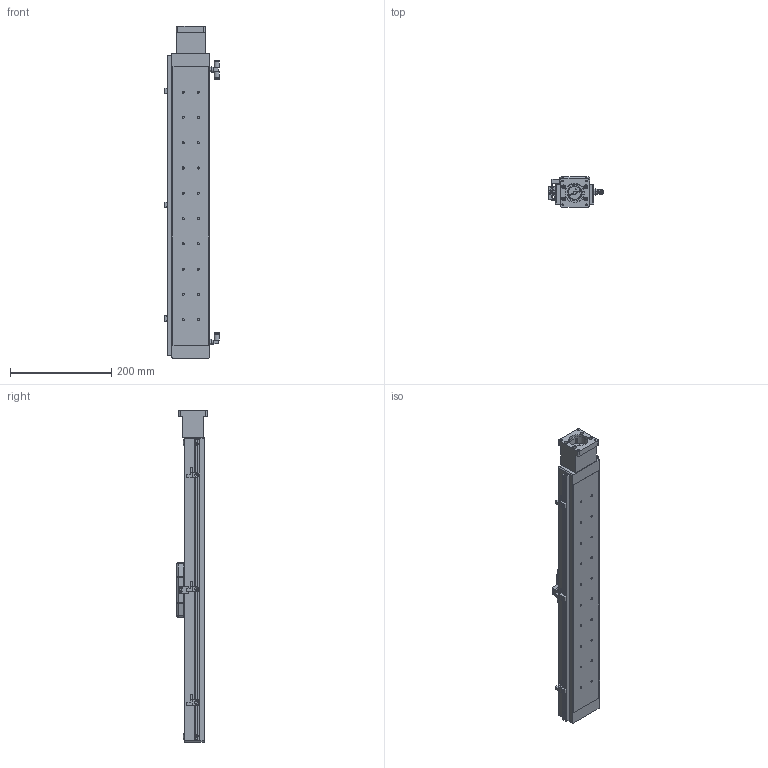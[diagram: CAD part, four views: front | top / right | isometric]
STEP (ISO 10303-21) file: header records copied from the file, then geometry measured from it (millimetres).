
FILE_DESCRIPTION((''),'2;1');
FILE_NAME('E:\catalogue and flyer\actuator catalogue 2015\dwg fr wg\UIA076CR9DC\UIA076CR9DC-stp file 05May16\UIA076CR9DC-450-R12_ _-M23-P13-C10-S.stp','2016-05-05T13:20:04',('h029'),(''),'Autodesk Inventor 11','Autodesk Inventor 11','');
FILE_SCHEMA(('AUTOMOTIVE_DESIGN { 1 0 10303 214 1 1 1 1 }'));
Length unit declared in the file: millimetre
Products named in the file (14): UIA076CR9DC-450; UIA076CR9DC-body; carriage-076CR; SOH25C; side 2; side 1; centre piece; 26-100 0071 sensor flag; GWL4-M5; GWT4-M5; 26-100 0110-M23; Sensor rail; Sensor Bracket ; Sensor
Assembly tree (17 placements, depth 3):
  UIA076CR9DC-450
    UIA076CR9DC-body
    carriage-076CR
    SOH25C
      side 2
      side 1
      centre piece
    26-100 0071 sensor flag
    GWL4-M5
    GWT4-M5
    26-100 0110-M23
    Sensor rail
    Sensor Bracket   x3
    Sensor  x3
Bounding box: 108.1 x 61 x 657 mm (x, y, z)
Volume: 2030753.4 mm3; surface area: 253591.5 mm2
Topology: 18 solids, 18 shells, 697 faces, 1794 edges, 1159 vertices
Faces by surface type: plane 355, bspline 164, cylinder 152, sphere 16, cone 10
Full cylindrical faces by diameter (mm): 2.459 x4, 2.5 x3, 8 x2, 25.5 x3, 30 x1, 37 x1, 38.1 x1
Entity records: 19737 total; most frequent: CARTESIAN_POINT 5735, DIRECTION 2781, ORIENTED_EDGE 2690, EDGE_CURVE 1345, AXIS2_PLACEMENT_3D 986, VERTEX_POINT 929, EDGE_LOOP 830, VECTOR 809
